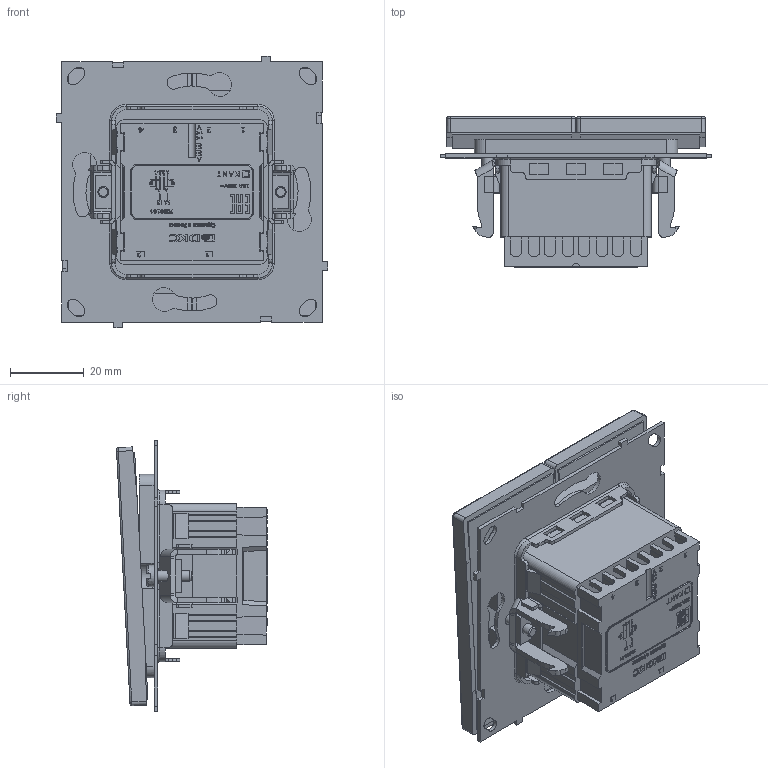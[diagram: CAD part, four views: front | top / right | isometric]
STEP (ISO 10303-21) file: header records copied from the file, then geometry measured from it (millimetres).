
FILE_DESCRIPTION (( 'STEP AP203' ), '1' );
FILE_NAME ('7000144.STEP', '2025-10-29T12:48:50', ( '' ), ( '' ), 'SwSTEP 2.0', 'SolidWorks 2022', '' );
FILE_SCHEMA (( 'CONFIG_CONTROL_DESIGN' ));
Length unit declared in the file: millimetre
Products named in the file (1): 7000144
Bounding box: 73.5 x 40.88 x 73.5 mm (x, y, z)
Volume: 80359.5 mm3; surface area: 30060.2 mm2
Topology: 3 solids, 3 shells, 1910 faces, 5297 edges, 3470 vertices
Faces by surface type: plane 1237, bspline 376, cylinder 263, torus 22, cone 12
Full cylindrical faces by diameter (mm): 3 x4, 3.3 x2
Entity records: 73796 total; most frequent: CARTESIAN_POINT 27148, ORIENTED_EDGE 10554, DIRECTION 8075, EDGE_CURVE 5277, VECTOR 3909, LINE 3909, VERTEX_POINT 3462, AXIS2_PLACEMENT_3D 2083
